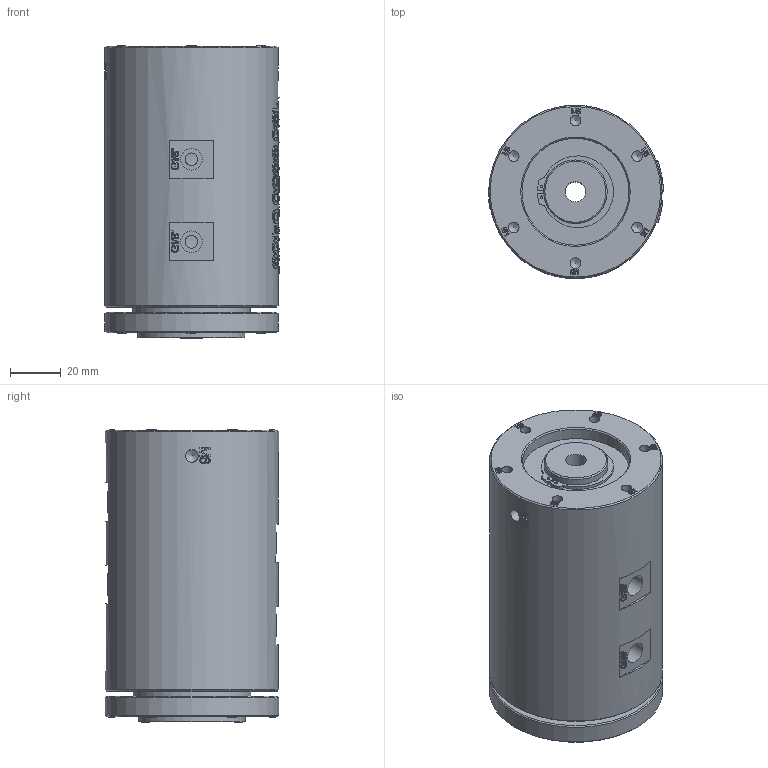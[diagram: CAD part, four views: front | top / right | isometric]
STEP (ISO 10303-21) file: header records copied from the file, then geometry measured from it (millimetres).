
FILE_DESCRIPTION(/* description */ (''),/* implementation_level */ '2;1');
FILE_NAME(/* name */ 'YY0401-3D模型.stp',/* time_stamp */ '2025-09-12T14:38:55+08:00',/* author */ (''),/* organization */ (''),/* preprocessor_version */ 'ST-DEVELOPER v16.7',/* originating_system */ 'SIEMENS PLM Software NX 12.0',/* authorisation */ '');
FILE_SCHEMA (('AUTOMOTIVE_DESIGN { 1 0 10303 214 3 1 1 1 }'));
Products named in the file (1): Admi2290F644gb99
Bounding box: 68.56 x 68 x 114.9 mm (x, y, z)
Volume: 391060 mm3; surface area: 43039.9 mm2
Topology: 1 solids, 1 shells, 1915 faces, 5309 edges, 3542 vertices
Faces by surface type: extrusion 1072, plane 664, bspline 91, cylinder 74, cone 14
Full cylindrical faces by diameter (mm): 1 x2, 4.2 x12, 5 x8, 8 x1, 8.5 x6, 23.9 x1, 25 x1, 42 x2, 46 x1, 68 x2
Entity records: 74987 total; most frequent: CARTESIAN_POINT 34190, ORIENTED_EDGE 10450, EDGE_CURVE 5225, B_SPLINE_CURVE_WITH_KNOTS 5040, DIRECTION 4102, VERTEX_POINT 3517, EDGE_LOOP 2126, VECTOR 2054
